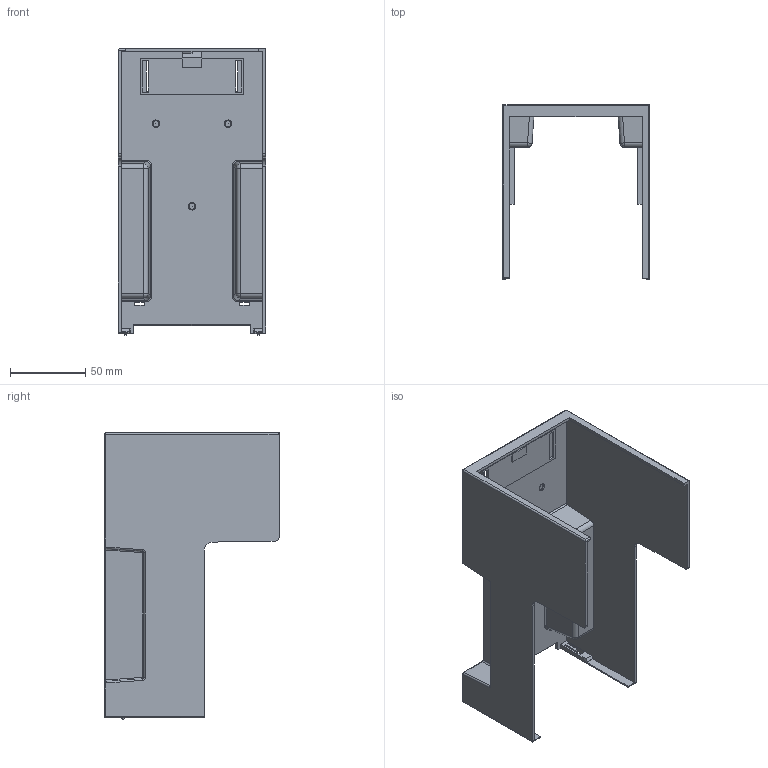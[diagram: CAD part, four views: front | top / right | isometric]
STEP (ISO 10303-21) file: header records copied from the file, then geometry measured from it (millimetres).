
FILE_DESCRIPTION(/* description */ (''),/* implementation_level */ '2;1');
FILE_NAME(/* name */ '74_MZKHO',/* time_stamp */ '2014-08-13T14:01:00+02:00',/* author */ (''),/* organization */ (''),/* preprocessor_version */ 'ST-DEVELOPER v9',/* originating_system */ 'UGS - NX 4.0',/* authorisation */ '');
FILE_SCHEMA (('CONFIG_CONTROL_DESIGN'));
Length unit declared in the file: millimetre
Products named in the file (1): MTro45BB8c8l
Bounding box: 98 x 116 x 191 mm (x, y, z)
Volume: 106110.7 mm3; surface area: 108667.8 mm2
Topology: 1 solids, 1 shells, 239 faces, 647 edges, 403 vertices
Faces by surface type: plane 127, cylinder 78, bspline 14, sphere 9, cone 7, torus 4
Full cylindrical faces by diameter (mm): 2 x3, 5 x3
Entity records: 7594 total; most frequent: CARTESIAN_POINT 1465, DIRECTION 1260, ORIENTED_EDGE 1256, EDGE_CURVE 628, LINE 448, VECTOR 448, AXIS2_PLACEMENT_3D 406, VERTEX_POINT 399
